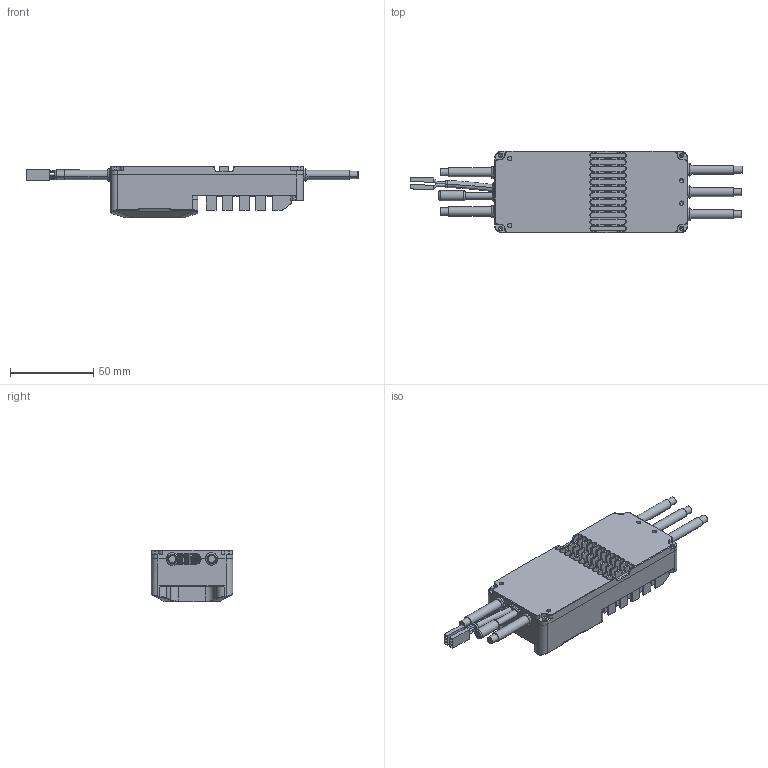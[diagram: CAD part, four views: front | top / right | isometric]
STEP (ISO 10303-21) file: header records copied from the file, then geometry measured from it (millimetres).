
FILE_DESCRIPTION (( 'STEP AP214' ), '1' );
FILE_NAME ('V-150A-14S.STEP', '2024-09-11T03:44:21', ( '' ), ( '' ), 'SwSTEP 2.0', 'SolidWorks 2022', '' );
FILE_SCHEMA (( 'AUTOMOTIVE_DESIGN' ));
Length unit declared in the file: millimetre
Products named in the file (11): 5.6mm电源负极10AWG; 编码器线; 10AWG（线径5; FOC150A电调外壳下盖 (按镭射修改); V-150A-14S; FOC150A外壳线槽（按镭射修改）; 信号线，编码器线（4mm）护线圈; FOC150A电调外壳上盖（按镭射修改）; 5.6mm三项10AWG; 信号线; 5.6mm电源正极10AWG
Assembly tree (16 placements, depth 2):
  V-150A-14S
    FOC150A电调外壳上盖（按镭射修改）
    FOC150A电调外壳下盖 (按镭射修改)
    10AWG（线径5  x5
    信号线，编码器线（4mm）护线圈
    FOC150A外壳线槽（按镭射修改）
    5.6mm三项10AWG  x3
    5.6mm电源正极10AWG
    5.6mm电源负极10AWG
    信号线
    编码器线
Bounding box: 199.84 x 49 x 30.9 mm (x, y, z)
Volume: 42095.3 mm3; surface area: 61041.3 mm2
Topology: 21 solids, 21 shells, 1628 faces, 4232 edges, 2668 vertices
Faces by surface type: plane 933, cylinder 462, cone 151, bspline 54, torus 28
Entity records: 54177 total; most frequent: CARTESIAN_POINT 14645, ORIENTED_EDGE 8132, DIRECTION 7886, EDGE_CURVE 4066, VECTOR 2816, LINE 2816, VERTEX_POINT 2580, AXIS2_PLACEMENT_3D 2535
